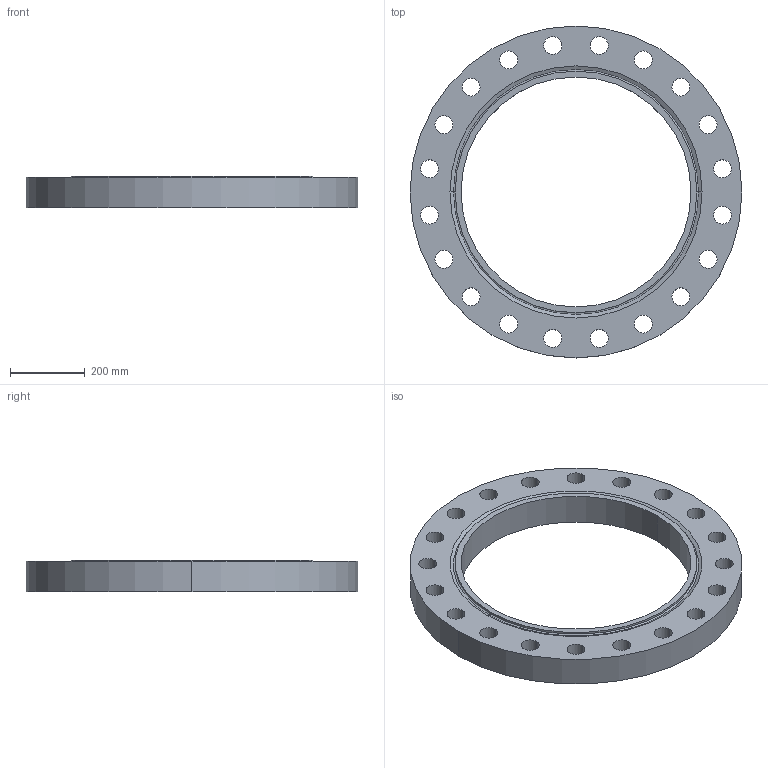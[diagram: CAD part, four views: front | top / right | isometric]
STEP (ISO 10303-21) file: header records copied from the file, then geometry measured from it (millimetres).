
FILE_DESCRIPTION (( 'STEP AP214' ), '1' );
FILE_NAME ('PN40 DN600 Type 01 - Type H Face.STEP', '2018-12-28T23:38:30', ( '' ), ( '' ), 'SwSTEP 2.0', 'SolidWorks 2019', '' );
FILE_SCHEMA (( 'AUTOMOTIVE_DESIGN' ));
Length unit declared in the file: millimetre
Products named in the file (1): PN40 DN600 Type 01 - Type H Face
Bounding box: 890 x 890 x 84 mm (x, y, z)
Volume: 23285052.7 mm3; surface area: 1224248.5 mm2
Topology: 1 solids, 1 shells, 53 faces, 146 edges, 96 vertices
Faces by surface type: cylinder 46, plane 3, torus 2, cone 2
Entity records: 1864 total; most frequent: DIRECTION 352, CARTESIAN_POINT 296, ORIENTED_EDGE 292, AXIS2_PLACEMENT_3D 152, EDGE_CURVE 146, CIRCLE 98, VERTEX_POINT 96, EDGE_LOOP 96
